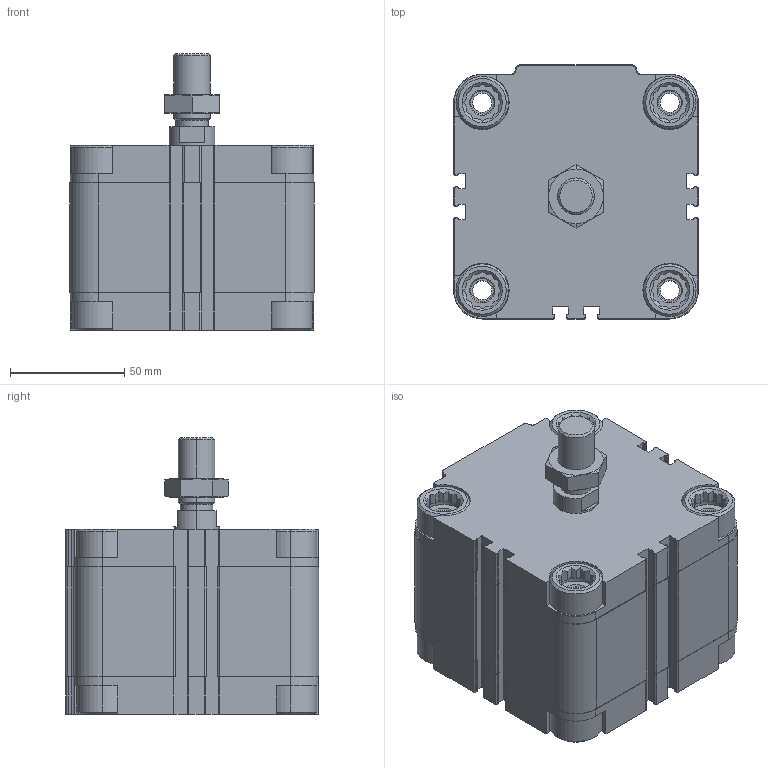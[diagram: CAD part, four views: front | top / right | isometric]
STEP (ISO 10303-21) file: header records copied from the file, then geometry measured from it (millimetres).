
FILE_DESCRIPTION (( 'STEP AP203' ), '1' );
FILE_NAME ('CDVU80-25.STEP', '2020-03-19T11:39:44', ( '' ), ( '' ), 'SwSTEP 2.0', 'SolidWorks 2019', '' );
FILE_SCHEMA (( 'CONFIG_CONTROL_DESIGN' ));
Length unit declared in the file: millimetre
Products named in the file (1): CDVU80-25
Bounding box: 107 x 111 x 121 mm (x, y, z)
Volume: 759731.5 mm3; surface area: 122582.7 mm2
Topology: 3 solids, 3 shells, 675 faces, 1816 edges, 1190 vertices
Faces by surface type: plane 397, cylinder 208, cone 70
Entity records: 21723 total; most frequent: CARTESIAN_POINT 4642, ORIENTED_EDGE 3624, DIRECTION 3460, EDGE_CURVE 1812, VERTEX_POINT 1190, AXIS2_PLACEMENT_3D 1176, VECTOR 1108, LINE 1108
